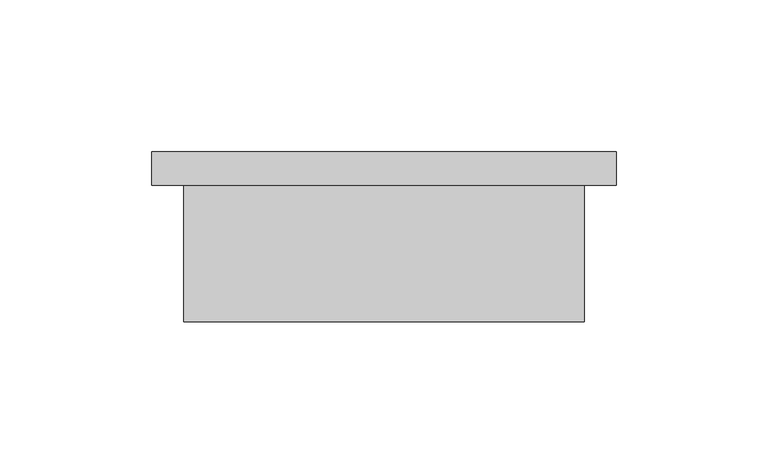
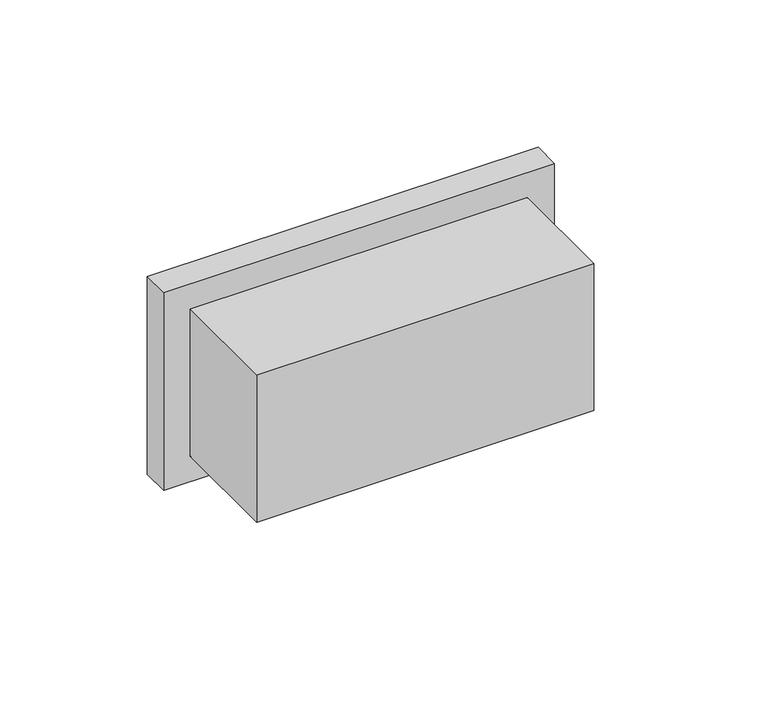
"""IFC4 building model written with IfcOpenShell, lengths in millimetres: proxy geometry, ADSK_Розетка_Встраиваемая : Двухгнездовая 1P+N+PE, IP20, 16А, 230В."""

from ifc_helpers import new_model, si_unit, origin, place, context, project, spatial, faceted_brep, source, transform, mapped, element, save


def electrical_fixtures_f98252bb(model_context):
    return source(origin(), model_context, "Body", "Brep", [
        faceted_brep([(76.5, 11.0, 41.0), (-76.5, 11.0, 41.0), (-76.5, 0.0, 41.0), (76.5, 0.0, 41.0), (76.5, 11.0, -41.0), (76.5, 0.0, -41.0), (-76.5, 0.0, -41.0), (-76.5, 11.0, -41.0), (-66.0, 0.0, 30.5), (66.0, 0.0, 30.5), (66.0, 0.0, -30.5), (-66.0, 0.0, -30.5), (-66.0, -45.0, 30.5), (66.0, -45.0, 30.5), (66.0, -45.0, -30.5), (-66.0, -45.0, -30.5)], [[[0, 1, 2, 3]], [[4, 5, 6, 7]], [[1, 0, 4, 7]], [[2, 1, 7, 6]], [[3, 2, 6, 5], [8, 9, 10, 11]], [[0, 3, 5, 4]], [[8, 12, 13, 9]], [[10, 14, 15, 11]], [[12, 8, 11, 15]], [[13, 12, 15, 14]], [[9, 13, 14, 10]]]),
    ])


if __name__ == "__main__":
    model = new_model("IFC4")
    model_context = context("Model", 3, world=origin())
    ifc_project = project(units=[si_unit("LENGTHUNIT", "METRE", prefix="MILLI")], contexts=[model_context])
    site = spatial("IfcSite", under=ifc_project)
    building = spatial("IfcBuilding", under=site)
    placement = place(None, origin())
    electrical_fixtures_shape = electrical_fixtures_f98252bb(model_context)
    element("IfcBuildingElementProxy", 1, Name="ADSK_Розетка_Встраиваемая : Двухгнездовая 1P+N+PE, IP20, 16А, 230В", ObjectType="ADSK_Розетка_Встраиваемая : Двухгнездовая 1P+N+PE, IP20, 16А, 230В", at=placement, inside=building, context=model_context, shape_type="MappedRepresentation", body=[
        mapped(electrical_fixtures_shape, transform((0.0, 0.0, 0.0), x_axis=(1.0, 0.0, 0.0), y_axis=(0.0, 1.0, 0.0), z_axis=(0.0, 0.0, 1.0))),
    ])
    save(model, "model.ifc")
